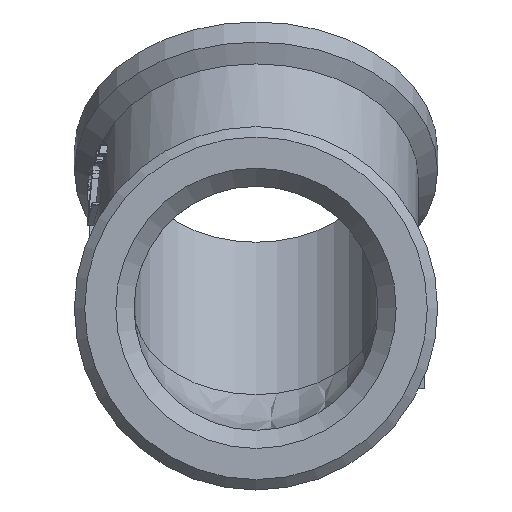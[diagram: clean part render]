
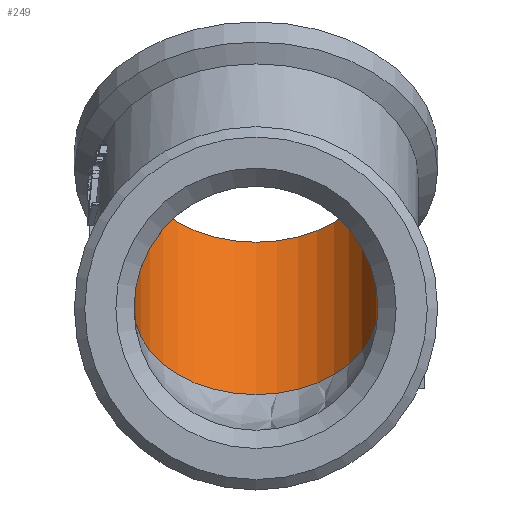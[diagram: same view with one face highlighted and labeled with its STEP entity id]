
A CAD part, front view. The second image highlights one B-rep face of the part: STEP entity #249.
In plain terms, the highlighted cylindrical face has radius 9.4 mm (diameter 18.8 mm), a full revolution.
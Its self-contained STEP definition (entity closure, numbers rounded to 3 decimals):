
#249=ADVANCED_FACE('',(#1621,#1623),#1625,.F.);
#1621=FACE_BOUND('',#1622,.T.);
#1622=EDGE_LOOP('',(#3083,#3084));
#1623=FACE_OUTER_BOUND('',#1624,.T.);
#1624=EDGE_LOOP('',(#3085));
#1625=CYLINDRICAL_SURFACE('',#1626,9.4);
#1626=AXIS2_PLACEMENT_3D('',#1627,#1628,#1629);
#1627=CARTESIAN_POINT('',(0.,0.,0.));
#1628=DIRECTION('',(0.,0.707,0.707));
#1629=DIRECTION('',(-1.,0.,0.));
#3083=ORIENTED_EDGE('',*,*,#3637,.F.);
#3084=ORIENTED_EDGE('',*,*,#3639,.T.);
#3085=ORIENTED_EDGE('',*,*,#3638,.F.);
#3637=EDGE_CURVE('',#4563,#4562,#4565,.F.);
#3638=EDGE_CURVE('',#4566,#4566,#4567,.F.);
#3639=EDGE_CURVE('',#4563,#4562,#4568,.F.);
#4562=VERTEX_POINT('',#8890);
#4563=VERTEX_POINT('',#8891);
#4565=(BOUNDED_CURVE()B_SPLINE_CURVE(3,
(#8896,#8897,#8898,#8899),
.UNSPECIFIED.,.F.,.F.)B_SPLINE_CURVE_WITH_KNOTS((4,4),
(0.,1.),
.UNSPECIFIED.)CURVE()GEOMETRIC_REPRESENTATION_ITEM()RATIONAL_B_SPLINE_CURVE((1.,
0.333,0.333,1.))REPRESENTATION_ITEM(''));
#4566=VERTEX_POINT('',#8900);
#4567=CIRCLE('',#8901,9.4);
#4568=CIRCLE('',#8905,9.4);
#8890=CARTESIAN_POINT('',(9.4,0.,0.));
#8891=CARTESIAN_POINT('',(-9.4,0.,0.));
#8896=CARTESIAN_POINT('',(9.4,0.,0.));
#8897=CARTESIAN_POINT('',(9.4,-7.787,18.8));
#8898=CARTESIAN_POINT('',(-9.4,-7.787,18.8));
#8899=CARTESIAN_POINT('',(-9.4,0.,0.));
#8900=CARTESIAN_POINT('',(-9.4,11.738,11.738));
#8901=AXIS2_PLACEMENT_3D('',#8902,#8903,#8904);
#8902=CARTESIAN_POINT('',(0.,11.738,11.738));
#8903=DIRECTION('',(0.,0.707,0.707));
#8904=DIRECTION('',(-1.,0.,0.));
#8905=AXIS2_PLACEMENT_3D('',#8906,#8907,#8908);
#8906=CARTESIAN_POINT('',(0.,0.,0.));
#8907=DIRECTION('',(0.,0.707,0.707));
#8908=DIRECTION('',(1.,0.,0.));
